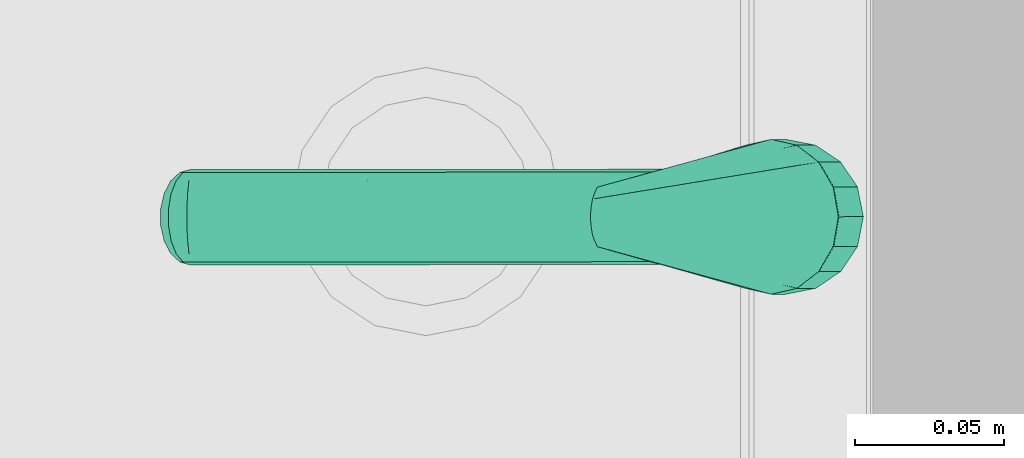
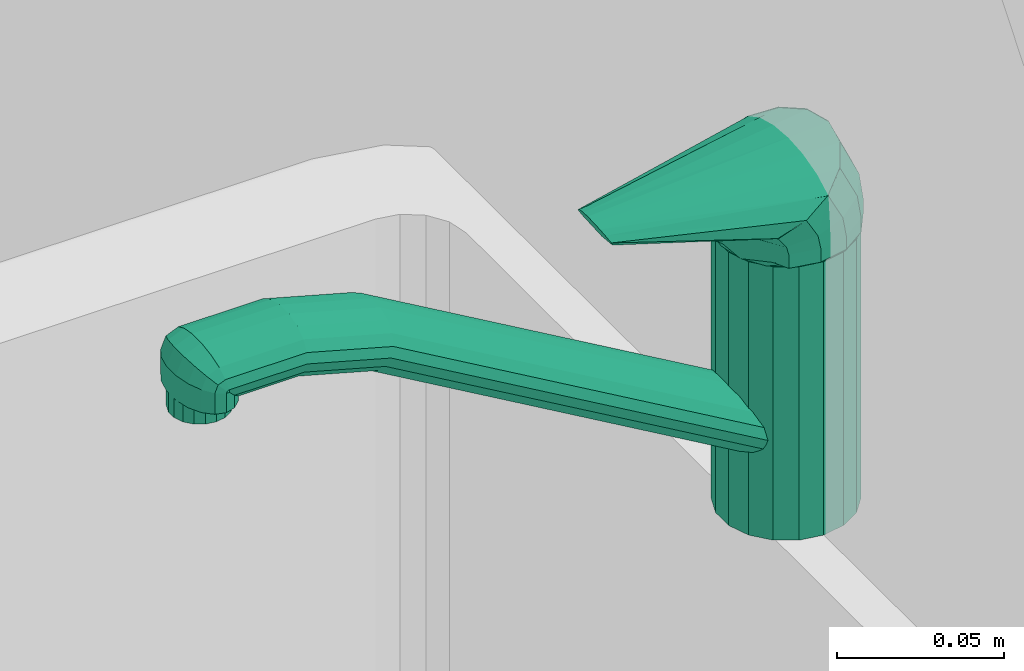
# One storey, part 84 of 127: 1 flow terminal.
"""IFC2X3 building model written with IfcOpenShell, lengths in millimetres."""

from ifc_helpers import new_model, entity, si_unit, converted_unit, derived_unit, money_unit, direction, frame, origin_with_axes, place, context, subcontext, project, spatial, open_shell, faceted_brep, surface_model, source, transform, mapped, type_object, element, save


model = new_model("IFC2X3")

# Units and contexts
model_context = context("Model", 3, precision=1e-05, world=origin_with_axes(), true_north=direction((0.0, 1.0)))
body_context = subcontext(model_context, "Body", "Model", "MODEL_VIEW")
ifc_project = project(units=[si_unit("LENGTHUNIT", "METRE", prefix="MILLI"), si_unit("AREAUNIT", "SQUARE_METRE"), si_unit("VOLUMEUNIT", "CUBIC_METRE"), converted_unit("PLANEANGLEUNIT", "DEGREE", entity("IfcPlaneAngleMeasure", 0.0174532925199), si_unit("PLANEANGLEUNIT", "RADIAN"), dimensions=[0, 0, 0, 0, 0, 0, 0]), si_unit("SOLIDANGLEUNIT", "STERADIAN"), money_unit("EUR"), converted_unit("TIMEUNIT", "Year", entity("IfcTimeMeasure", 31556926.0), si_unit("TIMEUNIT", "SECOND"), dimensions=[0, 0, 1, 0, 0, 0, 0]), si_unit("MASSUNIT", "GRAM", prefix="KILO"), si_unit("THERMODYNAMICTEMPERATUREUNIT", "DEGREE_CELSIUS"), si_unit("LUMINOUSINTENSITYUNIT", "LUMEN"), si_unit("ENERGYUNIT", "JOULE", prefix="MEGA"), derived_unit("THERMALCONDUCTANCEUNIT", [(si_unit("POWERUNIT", "WATT"), 1), (si_unit("LENGTHUNIT", "METRE"), -1), (si_unit("THERMODYNAMICTEMPERATUREUNIT", "KELVIN"), -1)]), derived_unit("SPECIFICHEATCAPACITYUNIT", [(si_unit("ENERGYUNIT", "JOULE"), 1), (si_unit("MASSUNIT", "GRAM", prefix="KILO"), -1), (si_unit("THERMODYNAMICTEMPERATUREUNIT", "KELVIN"), -1)]), derived_unit("MASSDENSITYUNIT", [(si_unit("MASSUNIT", "GRAM", prefix="KILO"), 1), (si_unit("VOLUMEUNIT", "CUBIC_METRE"), -1)])], contexts=[model_context])

# Site, building, storey
site_placement = place(None, origin_with_axes())
site = spatial("IfcSite", under=ifc_project, at=site_placement, Name="Site", CompositionType="ELEMENT")
building_placement = place(site_placement, origin_with_axes())
building = spatial("IfcBuilding", under=site, at=building_placement, Name="Building", CompositionType="ELEMENT")
storey_placement = place(building_placement, origin_with_axes())
storey = spatial("IfcBuildingStorey", under=building, at=storey_placement, Name="1 KORRUS", CompositionType="ELEMENT", Elevation=0.0)

# Flow terminal
sanitary_terminal_type = type_object("IfcSanitaryTerminalType", Name="Tap 22", PredefinedType="NOTDEFINED")
shared_shape = source(origin_with_axes(), body_context, "Body", "SurfaceModel", [
    faceted_brep([(21.1430839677, -7.69545322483, 1000.0), (17.2359999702, -14.4627212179, 1000.0), (11.25, -19.4855715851, 1000.0), (3.90708399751, -22.1581744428, 1000.0), (-3.90708399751, -22.1581744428, 1000.0), (-11.25, -19.4855715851, 1000.0), (-17.2359999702, -14.4627212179, 1000.0), (-21.1430839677, -7.69545322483, 1000.0), (-22.5, 0.0, 1000.0), (-21.1430839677, 7.69545322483, 1000.0), (-17.2359999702, 14.4627212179, 1000.0), (-11.25, 19.4855715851, 1000.0), (-3.90708399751, 22.1581744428, 1000.0), (3.90708399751, 22.1581744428, 1000.0), (11.25, 19.4855715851, 1000.0), (17.2359999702, 14.4627212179, 1000.0), (21.1430839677, 7.69545322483, 1000.0), (22.5, 0.0, 1000.0), (21.1430839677, -7.69545322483, 1010.0), (17.2359999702, -14.4627212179, 1010.0), (11.25, -19.4855715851, 1010.0), (3.90708399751, -22.1581744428, 1010.0), (-3.90708399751, -22.1581744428, 1010.0), (-11.25, -19.4855715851, 1010.0), (-17.2359999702, -14.4627212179, 1010.0), (-21.1430839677, -7.69545322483, 1010.0), (-22.5, 0.0, 1010.0), (-21.1430839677, 7.69545322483, 1010.0), (-17.2359999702, 14.4627212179, 1010.0), (-11.25, 19.4855715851, 1010.0), (-3.90708399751, 22.1581744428, 1010.0), (3.90708399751, 22.1581744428, 1010.0), (11.25, 19.4855715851, 1010.0), (17.2359999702, 14.4627212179, 1010.0), (21.1430839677, 7.69545322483, 1010.0), (22.5, 0.0, 1010.0)], [[[0, 1, 2, 3, 4, 5, 6, 7, 8, 9, 10, 11, 12, 13, 14, 15, 16, 17]], [[1, 0, 18, 19]], [[2, 1, 19, 20]], [[3, 2, 20, 21]], [[4, 3, 21, 22]], [[5, 4, 22, 23]], [[6, 5, 23, 24]], [[7, 6, 24, 25]], [[8, 7, 25, 26]], [[9, 8, 26, 27]], [[10, 9, 27, 28]], [[11, 10, 28, 29]], [[12, 11, 29, 30]], [[13, 12, 30, 31]], [[14, 13, 31, 32]], [[15, 14, 32, 33]], [[16, 15, 33, 34]], [[17, 16, 34, 35]], [[0, 17, 35, 18]], [[18, 35, 34, 33, 32, 31, 30, 29, 28, 27, 26, 25, 24, 23, 22, 21, 20, 19]]]),
    faceted_brep([(21.1430839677, -7.69545322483, 1010.0), (17.2359999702, -14.4627212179, 1010.0), (11.25, -19.4855715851, 1010.0), (3.90708399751, -22.1581744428, 1010.0), (-3.90708399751, -22.1581744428, 1010.0), (-11.25, -19.4855715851, 1010.0), (-17.2359999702, -14.4627212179, 1010.0), (-21.1430839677, -7.69545322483, 1010.0), (-22.5, 0.0, 1010.0), (-21.1430839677, 7.69545322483, 1010.0), (-17.2359999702, 14.4627212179, 1010.0), (-11.25, 19.4855715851, 1010.0), (-3.90708399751, 22.1581744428, 1010.0), (3.90708399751, 22.1581744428, 1010.0), (11.25, 19.4855715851, 1010.0), (17.2359999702, 14.4627212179, 1010.0), (21.1430839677, 7.69545322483, 1010.0), (22.5, 0.0, 1010.0), (21.1430839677, -7.69545322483, 1055.0), (17.2359999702, -14.4627212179, 1055.0), (11.25, -19.4855715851, 1055.0), (3.90708399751, -22.1581744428, 1055.0), (-3.90708399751, -22.1581744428, 1055.0), (-11.25, -19.4855715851, 1055.0), (-17.2359999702, -14.4627212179, 1055.0), (-21.1430839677, -7.69545322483, 1055.0), (-22.5, 0.0, 1055.0), (-21.1430839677, 7.69545322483, 1055.0), (-17.2359999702, 14.4627212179, 1055.0), (-11.25, 19.4855715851, 1055.0), (-3.90708399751, 22.1581744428, 1055.0), (3.90708399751, 22.1581744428, 1055.0), (11.25, 19.4855715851, 1055.0), (17.2359999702, 14.4627212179, 1055.0), (21.1430839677, 7.69545322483, 1055.0), (22.5, 0.0, 1055.0)], [[[0, 1, 2, 3, 4, 5, 6, 7, 8, 9, 10, 11, 12, 13, 14, 15, 16, 17]], [[1, 0, 18, 19]], [[2, 1, 19, 20]], [[3, 2, 20, 21]], [[4, 3, 21, 22]], [[5, 4, 22, 23]], [[6, 5, 23, 24]], [[7, 6, 24, 25]], [[8, 7, 25, 26]], [[9, 8, 26, 27]], [[10, 9, 27, 28]], [[11, 10, 28, 29]], [[12, 11, 29, 30]], [[13, 12, 30, 31]], [[14, 13, 31, 32]], [[15, 14, 32, 33]], [[16, 15, 33, 34]], [[17, 16, 34, 35]], [[0, 17, 35, 18]], [[18, 35, 34, 33, 32, 31, 30, 29, 28, 27, 26, 25, 24, 23, 22, 21, 20, 19]]]),
    faceted_brep([(21.1430839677, -7.69545322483, 1055.0), (17.2359999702, -14.4627212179, 1055.0), (11.25, -19.4855715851, 1055.0), (3.90708399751, -22.1581744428, 1055.0), (-3.90708399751, -22.1581744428, 1055.0), (-11.25, -19.4855715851, 1055.0), (-17.2359999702, -14.4627212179, 1055.0), (-21.1430839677, -7.69545322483, 1055.0), (-22.5, 0.0, 1055.0), (-21.1430839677, 7.69545322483, 1055.0), (-17.2359999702, 14.4627212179, 1055.0), (-11.25, 19.4855715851, 1055.0), (-3.90708399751, 22.1581744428, 1055.0), (3.90708399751, 22.1581744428, 1055.0), (11.25, 19.4855715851, 1055.0), (17.2359999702, 14.4627212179, 1055.0), (21.1430839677, 7.69545322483, 1055.0), (22.5, 0.0, 1055.0), (21.1430839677, -7.69545322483, 1100.0), (17.2359999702, -14.4627212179, 1100.0), (11.25, -19.4855715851, 1100.0), (3.90708399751, -22.1581744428, 1100.0), (-3.90708399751, -22.1581744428, 1100.0), (-11.25, -19.4855715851, 1100.0), (-17.2359999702, -14.4627212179, 1100.0), (-21.1430839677, -7.69545322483, 1100.0), (-22.5, 0.0, 1100.0), (-21.1430839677, 7.69545322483, 1100.0), (-17.2359999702, 14.4627212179, 1100.0), (-11.25, 19.4855715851, 1100.0), (-3.90708399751, 22.1581744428, 1100.0), (3.90708399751, 22.1581744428, 1100.0), (11.25, 19.4855715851, 1100.0), (17.2359999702, 14.4627212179, 1100.0), (21.1430839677, 7.69545322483, 1100.0), (22.5, 0.0, 1100.0)], [[[0, 1, 2, 3, 4, 5, 6, 7, 8, 9, 10, 11, 12, 13, 14, 15, 16, 17]], [[1, 0, 18, 19]], [[2, 1, 19, 20]], [[3, 2, 20, 21]], [[4, 3, 21, 22]], [[5, 4, 22, 23]], [[6, 5, 23, 24]], [[7, 6, 24, 25]], [[8, 7, 25, 26]], [[9, 8, 26, 27]], [[10, 9, 27, 28]], [[11, 10, 28, 29]], [[12, 11, 29, 30]], [[13, 12, 30, 31]], [[14, 13, 31, 32]], [[15, 14, 32, 33]], [[16, 15, 33, 34]], [[17, 16, 34, 35]], [[0, 17, 35, 18]], [[18, 35, 34, 33, 32, 31, 30, 29, 28, 27, 26, 25, 24, 23, 22, 21, 20, 19]]]),
    surface_model("IfcShellBasedSurfaceModel", [(20.7872894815, -8.61037722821, 1100.0), (22.5, 0.0, 1100.0), (26.0, -3.0, 1104.5), (24.0208678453, -12.9497692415, 1104.5), (20.7872894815, 8.61037722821, 1100.0), (24.0208678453, 6.94976924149, 1104.5), (15.9099025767, -15.9099025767, 1100.0), (24.0208678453, -12.9497692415, 1104.5), (15.9099025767, 15.9099025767, 1100.0), (18.3847763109, 15.3847763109, 1104.5), (8.61037722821, -20.7872894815, 1100.0), (8.61037722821, 20.7872894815, 1100.0), (9.94976924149, 21.0208678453, 1104.5), (0.0, -25.1, 1104.5), (0.0, 22.5, 1100.0), (0.0, 23.0, 1104.5), (0.0, -22.5, 1100.0), (-8.61037722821, 20.7872894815, 1100.0), (-9.94976924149, 21.0208678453, 1104.5), (-8.61037722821, -20.7872894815, 1100.0), (-15.9099025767, 15.9099025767, 1100.0), (-18.3847763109, 15.3847763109, 1104.5), (-15.9099025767, -15.9099025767, 1100.0), (-20.7872894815, 8.61037722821, 1100.0), (-24.0208678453, 6.94976924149, 1104.5), (-24.0208678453, -12.9497692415, 1104.5), (-22.5, 0.0, 1100.0), (-26.0, -3.0, 1104.5), (-20.7872894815, -8.61037722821, 1100.0)], [open_shell([[[0, 1, 2, 3]], [[1, 4, 5, 2]], [[6, 0, 3, 7]], [[4, 8, 9, 5]], [[10, 6, 7]], [[8, 11, 12, 9]], [[10, 7, 13]], [[11, 14, 15, 12]], [[16, 10, 13]], [[14, 17, 18, 15]], [[19, 16, 13]], [[17, 20, 21, 18]], [[22, 19, 13]], [[20, 23, 24, 21]], [[22, 13, 25]], [[23, 26, 27, 24]], [[28, 22, 25]], [[26, 28, 25, 27]]])]),
    surface_model("IfcShellBasedSurfaceModel", [(24.0208678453, -12.9497692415, 1103.0), (26.0, -3.0, 1108.0), (24.0208678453, -12.9497692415, 1108.0), (26.0, -3.0, 1103.0), (26.0, -4.0, 1113.0), (24.0208678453, -12.9497692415, 1103.0), (24.0208678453, 6.94976924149, 1108.0), (24.0208678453, -13.7565514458, 1111.04868971), (24.0208678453, 5.75655144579, 1114.95131029), (24.0208678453, -12.9497692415, 1108.0), (24.0208678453, 6.94976924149, 1103.0), (26.0, -8.0, 1120.0), (24.0208678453, 0.638818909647, 1124.93646795), (0.0, -25.1, 1103.0), (18.3847763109, 15.3847763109, 1108.0), (18.3847763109, 14.0277563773, 1116.60555128), (24.0208678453, -16.6388189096, 1115.06353205), (24.0208678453, -13.7565514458, 1111.04868971), (18.3847763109, 7.96245595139, 1129.1214034), (0.0, -25.1, 1108.0), (18.3847763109, 15.3847763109, 1103.0), (-24.0208678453, -12.9497692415, 1103.0), (9.94976924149, 21.0208678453, 1108.0), (9.94976924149, 19.5543988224, 1117.71087976), (9.94976924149, 12.8559537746, 1131.91768787), (24.0208678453, -16.6388189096, 1115.06353205), (0.0, -25.6708329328, 1108.66583341), (-24.0208678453, -12.9497692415, 1108.0), (9.94976924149, 21.0208678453, 1103.0), (-26.0, -3.0, 1103.0), (0.0, 23.0, 1108.0), (0.0, 21.495097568, 1118.09901951), (0.0, 14.5743216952, 1132.8996124), (0.0, -27.188173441, 1109.03532946), (-24.0208678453, -13.7565514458, 1111.04868971), (-26.0, -3.0, 1108.0), (0.0, 23.0, 1103.0), (-24.0208678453, 6.94976924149, 1103.0), (-9.94976924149, 21.0208678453, 1108.0), (-9.94976924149, 19.5543988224, 1117.71087976), (-9.94976924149, 12.8559537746, 1131.91768787), (-24.0208678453, -16.6388189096, 1115.06353205), (-26.0, -4.0, 1113.0), (-24.0208678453, 6.94976924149, 1108.0), (-9.94976924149, 21.0208678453, 1103.0), (-18.3847763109, 15.3847763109, 1103.0), (-18.3847763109, 15.3847763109, 1108.0), (-18.3847763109, 14.0277563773, 1116.60555128), (-18.3847763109, 7.96245595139, 1129.1214034), (-26.0, -8.0, 1120.0), (-24.0208678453, 5.75655144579, 1114.95131029), (-24.0208678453, 0.638818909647, 1124.93646795)], [open_shell([[[0, 1, 2]], [[1, 0, 3]], [[4, 2, 1]], [[2, 5, 0]], [[3, 6, 1]], [[2, 4, 7]], [[1, 8, 4]], [[5, 2, 9]], [[6, 3, 10]], [[8, 1, 6]], [[11, 7, 4]], [[7, 9, 2]], [[12, 4, 8]], [[9, 13, 5]], [[10, 14, 6]], [[6, 15, 8]], [[7, 11, 16]], [[4, 12, 11]], [[9, 7, 17]], [[8, 18, 12]], [[13, 9, 19]], [[14, 10, 20]], [[15, 6, 14]], [[18, 8, 15]], [[16, 17, 7]], [[17, 19, 9]], [[19, 21, 13]], [[20, 22, 14]], [[14, 23, 15]], [[15, 24, 18]], [[17, 16, 25]], [[19, 17, 26]], [[21, 19, 27]], [[22, 20, 28]], [[23, 14, 22]], [[24, 15, 23]], [[25, 26, 17]], [[26, 27, 19]], [[27, 29, 21]], [[28, 30, 22]], [[22, 31, 23]], [[23, 32, 24]], [[26, 25, 33]], [[27, 26, 34]], [[29, 27, 35]], [[30, 28, 36]], [[31, 22, 30]], [[32, 23, 31]], [[33, 34, 26]], [[34, 35, 27]], [[35, 37, 29]], [[36, 38, 30]], [[30, 39, 31]], [[31, 40, 32]], [[34, 33, 41]], [[35, 34, 42]], [[37, 35, 43]], [[38, 36, 44]], [[39, 30, 38]], [[40, 31, 39]], [[41, 42, 34]], [[42, 43, 35]], [[43, 45, 37]], [[44, 46, 38]], [[38, 47, 39]], [[39, 48, 40]], [[42, 41, 49]], [[43, 42, 50]], [[45, 43, 46]], [[46, 44, 45]], [[47, 38, 46]], [[48, 39, 47]], [[49, 50, 42]], [[50, 46, 43]], [[46, 50, 47]], [[47, 51, 48]], [[50, 49, 51]], [[51, 47, 50]]])]),
    surface_model("IfcShellBasedSurfaceModel", [(24.0208678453, -16.7440274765, 1115.25238044), (26.0, -8.0, 1120.0), (10.0, -66.2556184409, 1122.50657537), (8.0, -67.2099359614, 1124.26420959), (9.0, -65.3013009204, 1120.74894114), (24.0208678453, 0.744027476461, 1124.74761956), (6.0, -67.9256741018, 1125.58243526), (3.0, -68.4028328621, 1126.46125237), (0.0, -68.6414122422, 1126.90066093), (-3.0, -68.4028328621, 1126.46125237), (-6.0, -67.9256741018, 1125.58243526), (-8.0, -67.2099359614, 1124.26420959), (-10.0, -66.2556184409, 1122.50657537), (-9.0, -65.3013009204, 1120.74894114), (0.0, -63.8698246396, 1118.1124898), (0.0, -27.4218581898, 1109.4547914), (18.3847763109, 8.15685603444, 1128.77245707), (9.94976924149, 13.1099497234, 1131.46176752), (0.0, 14.8492449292, 1132.40612777), (-9.94976924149, 13.1099497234, 1131.46176752), (-18.3847763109, 8.15685603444, 1128.77245707), (-24.0208678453, 0.744027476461, 1124.74761956), (-26.0, -8.0, 1120.0), (-24.0208678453, -16.7440274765, 1115.25238044)], [open_shell([[[0, 1, 2]], [[1, 3, 2]], [[0, 2, 4]], [[1, 5, 3]], [[4, 2, 3, 6, 7, 8, 9, 10, 11, 12, 13, 14]], [[15, 0, 4]], [[5, 6, 3]], [[16, 7, 6]], [[17, 8, 7]], [[18, 9, 8]], [[19, 10, 9]], [[20, 11, 10]], [[21, 12, 11]], [[22, 13, 12]], [[23, 14, 13]], [[15, 4, 14]], [[5, 16, 6]], [[16, 17, 7]], [[17, 18, 8]], [[18, 19, 9]], [[19, 20, 10]], [[20, 21, 11]], [[21, 22, 12]], [[22, 23, 13]], [[23, 15, 14]]])]),
    surface_model("IfcShellBasedSurfaceModel", [(16.0, -15.0, 1035.8), (15.0350819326, -13.350271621, 1038.79711945), (15.0350819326, -144.663324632, 1115.17921593), (16.0, -146.0, 1112.0), (12.2567110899, -11.8995248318, 1041.43274206), (12.2567110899, -143.487872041, 1117.97497151), (15.0350819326, -174.536897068, 1123.42020143), (16.0, -175.0, 1120.0), (15.0350819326, -16.649728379, 1032.80288055), (15.0350819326, -147.336675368, 1108.82078407), (8.0, -10.8227411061, 1043.38897285), (8.0, -142.615419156, 1120.05005733), (12.2567110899, -174.129651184, 1126.4278761), (15.0350819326, -202.702022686, 1123.42020143), (16.0, -202.0, 1120.0), (15.0350819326, -175.463102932, 1116.57979857), (12.2567110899, -18.1004751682, 1030.16725794), (12.2567110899, -148.512127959, 1106.02502849), (2.77837084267, -10.2497964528, 1044.42986151), (2.77837084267, -142.151196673, 1121.15418744), (8.0, -173.827382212, 1128.66025404), (12.2567110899, -203.319371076, 1126.4278761), (15.0350819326, -205.304747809, 1122.30474781), (16.0, -202.7, 1119.7), (15.0350819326, -201.297977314, 1116.57979857), (12.2567110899, -175.870348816, 1113.5721239), (8.0, -19.1772588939, 1028.21102715), (8.0, -149.384580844, 1103.94994267), (-2.77837084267, -10.2497964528, 1044.42986151), (-2.77837084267, -142.151196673, 1121.15418744), (2.77837084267, -173.666548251, 1129.84807753), (8.0, -203.777583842, 1128.66025404), (12.2567110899, -207.595324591, 1124.59532459), (15.0350819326, -206.420201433, 1119.70202269), (16.0, -203.0, 1119.0), (15.0350819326, -200.095252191, 1117.09525219), (12.2567110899, -200.680628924, 1113.5721239), (8.0, -176.172617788, 1111.33974596), (2.77837084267, -19.7502035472, 1027.17013849), (2.77837084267, -149.848803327, 1102.84581256), (-8.0, -10.8227411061, 1043.38897285), (-8.0, -142.615419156, 1120.05005733), (-2.77837084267, -173.666548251, 1129.84807753), (2.77837084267, -204.021393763, 1129.84807753), (8.0, -209.295452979, 1126.29545298), (12.2567110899, -209.427876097, 1120.31937108), (15.0350819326, -206.420201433, 1112.0), (16.0, -203.0, 1112.0), (15.0350819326, -199.579798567, 1118.29797731), (12.2567110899, -197.804675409, 1114.80467541), (8.0, -200.222416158, 1111.33974596), (2.77837084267, -176.333451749, 1110.15192247), (-2.77837084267, -19.7502035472, 1027.17013849), (-2.77837084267, -149.848803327, 1102.84581256), (-12.2567110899, -11.8995248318, 1041.43274206), (-12.2567110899, -143.487872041, 1117.97497151), (-8.0, -173.827382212, 1128.66025404), (-2.77837084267, -204.021393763, 1129.84807753), (2.77837084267, -210.2000724, 1127.2000724), (8.0, -211.660254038, 1120.77758384), (12.2567110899, -209.427876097, 1112.0), (8.0, -211.660254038, 1112.0), (2.77837084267, -212.84807753, 1112.0), (-2.77837084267, -212.84807753, 1112.0), (-8.0, -211.660254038, 1112.0), (-12.2567110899, -209.427876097, 1112.0), (-15.0350819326, -206.420201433, 1112.0), (-16.0, -203.0, 1112.0), (-15.0350819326, -199.579798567, 1112.0), (-12.2567110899, -196.572123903, 1112.0), (-8.0, -194.339745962, 1112.0), (-2.77837084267, -193.15192247, 1112.0), (2.77837084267, -193.15192247, 1112.0), (8.0, -194.339745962, 1112.0), (12.2567110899, -196.572123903, 1112.0), (15.0350819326, -199.579798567, 1112.0), (12.2567110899, -196.572123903, 1117.68062892), (8.0, -196.104547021, 1113.10454702), (2.77837084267, -199.978606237, 1110.15192247), (-2.77837084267, -176.333451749, 1110.15192247), (-8.0, -19.1772588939, 1028.21102715), (-8.0, -149.384580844, 1103.94994267), (-15.0350819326, -13.350271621, 1038.79711945), (-15.0350819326, -144.663324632, 1115.17921593), (-12.2567110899, -174.129651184, 1126.4278761), (-8.0, -203.777583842, 1128.66025404), (-2.77837084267, -210.2000724, 1127.2000724), (2.77837084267, -212.84807753, 1121.02139376), (-2.77837084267, -212.84807753, 1121.02139376), (-8.0, -211.660254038, 1120.77758384), (-12.2567110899, -209.427876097, 1120.31937108), (-15.0350819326, -206.420201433, 1119.70202269), (-16.0, -203.0, 1119.0), (-15.0350819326, -199.579798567, 1118.29797731), (-12.2567110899, -196.572123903, 1117.68062892), (-8.0, -194.339745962, 1117.22241616), (-2.77837084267, -193.15192247, 1116.97860624), (2.77837084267, -193.15192247, 1116.97860624), (8.0, -194.339745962, 1117.22241616), (2.77837084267, -195.1999276, 1112.1999276), (-2.77837084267, -199.978606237, 1110.15192247), (-8.0, -176.172617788, 1111.33974596), (-12.2567110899, -18.1004751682, 1030.16725794), (-12.2567110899, -148.512127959, 1106.02502849), (-16.0, -15.0, 1035.8), (-16.0, -146.0, 1112.0), (-15.0350819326, -174.536897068, 1123.42020143), (-12.2567110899, -203.319371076, 1126.4278761), (-8.0, -209.295452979, 1126.29545298), (-12.2567110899, -207.595324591, 1124.59532459), (-15.0350819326, -205.304747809, 1122.30474781), (-16.0, -202.7, 1119.7), (-15.0350819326, -200.095252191, 1117.09525219), (-12.2567110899, -197.804675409, 1114.80467541), (-8.0, -196.104547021, 1113.10454702), (-2.77837084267, -195.1999276, 1112.1999276), (-8.0, -200.222416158, 1111.33974596), (-12.2567110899, -175.870348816, 1113.5721239), (-15.0350819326, -16.649728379, 1032.80288055), (-15.0350819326, -147.336675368, 1108.82078407), (-16.0, -175.0, 1120.0), (-15.0350819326, -202.702022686, 1123.42020143), (-16.0, -202.0, 1120.0), (-15.0350819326, -201.297977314, 1116.57979857), (-12.2567110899, -200.680628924, 1113.5721239), (-15.0350819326, -175.463102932, 1116.57979857)], [open_shell([[[0, 1, 2, 3]], [[1, 4, 5, 2]], [[3, 2, 6, 7]], [[8, 0, 3, 9]], [[4, 10, 11, 5]], [[2, 5, 12, 6]], [[7, 6, 13, 14]], [[9, 3, 7, 15]], [[16, 8, 9, 17]], [[10, 18, 19, 11]], [[5, 11, 20, 12]], [[6, 12, 21, 13]], [[14, 13, 22, 23]], [[15, 7, 14, 24]], [[17, 9, 15, 25]], [[26, 16, 17, 27]], [[18, 28, 29, 19]], [[11, 19, 30, 20]], [[12, 20, 31, 21]], [[13, 21, 32, 22]], [[23, 22, 33, 34]], [[24, 14, 23, 35]], [[25, 15, 24, 36]], [[27, 17, 25, 37]], [[38, 26, 27, 39]], [[28, 40, 41, 29]], [[19, 29, 42, 30]], [[20, 30, 43, 31]], [[21, 31, 44, 32]], [[22, 32, 45, 33]], [[34, 33, 46, 47]], [[35, 23, 34, 48]], [[36, 24, 35, 49]], [[37, 25, 36, 50]], [[39, 27, 37, 51]], [[52, 38, 39, 53]], [[40, 54, 55, 41]], [[29, 41, 56, 42]], [[30, 42, 57, 43]], [[31, 43, 58, 44]], [[32, 44, 59, 45]], [[33, 45, 60, 46]], [[47, 46, 60, 61, 62, 63, 64, 65, 66, 67, 68, 69, 70, 71, 72, 73, 74, 75]], [[48, 34, 47, 75]], [[49, 35, 48, 76]], [[50, 36, 49, 77]], [[51, 37, 50, 78]], [[53, 39, 51, 79]], [[80, 52, 53, 81]], [[54, 82, 83, 55]], [[41, 55, 84, 56]], [[42, 56, 85, 57]], [[43, 57, 86, 58]], [[44, 58, 87, 59]], [[45, 59, 61, 60]], [[59, 87, 62, 61]], [[87, 88, 63, 62]], [[88, 89, 64, 63]], [[89, 90, 65, 64]], [[90, 91, 66, 65]], [[91, 92, 67, 66]], [[92, 93, 68, 67]], [[93, 94, 69, 68]], [[94, 95, 70, 69]], [[95, 96, 71, 70]], [[96, 97, 72, 71]], [[97, 98, 73, 72]], [[98, 76, 74, 73]], [[76, 48, 75, 74]], [[77, 49, 76, 98]], [[78, 50, 77, 99]], [[79, 51, 78, 100]], [[81, 53, 79, 101]], [[102, 80, 81, 103]], [[82, 104, 105, 83]], [[55, 83, 106, 84]], [[56, 84, 107, 85]], [[57, 85, 108, 86]], [[58, 86, 88, 87]], [[86, 108, 89, 88]], [[108, 109, 90, 89]], [[109, 110, 91, 90]], [[110, 111, 92, 91]], [[111, 112, 93, 92]], [[112, 113, 94, 93]], [[113, 114, 95, 94]], [[114, 115, 96, 95]], [[115, 99, 97, 96]], [[99, 77, 98, 97]], [[100, 78, 99, 115]], [[101, 79, 100, 116]], [[103, 81, 101, 117]], [[118, 102, 103, 119]], [[104, 118, 119, 105]], [[83, 105, 120, 106]], [[84, 106, 121, 107]], [[85, 107, 109, 108]], [[107, 121, 110, 109]], [[121, 122, 111, 110]], [[122, 123, 112, 111]], [[123, 124, 113, 112]], [[124, 116, 114, 113]], [[116, 100, 115, 114]], [[117, 101, 116, 124]], [[119, 103, 117, 125]], [[105, 119, 125, 120]], [[106, 120, 122, 121]], [[120, 125, 123, 122]], [[125, 117, 124, 123]]])]),
    faceted_brep([(9.39692620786, -199.579798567, 1112.0), (7.66044443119, -196.572123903, 1112.0), (5.0, -194.339745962, 1112.0), (1.73648177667, -193.15192247, 1112.0), (-1.73648177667, -193.15192247, 1112.0), (-5.0, -194.339745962, 1112.0), (-7.66044443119, -196.572123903, 1112.0), (-9.39692620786, -199.579798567, 1112.0), (-10.0, -203.0, 1112.0), (-9.39692620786, -206.420201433, 1112.0), (-7.66044443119, -209.427876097, 1112.0), (-5.0, -211.660254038, 1112.0), (-1.73648177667, -212.84807753, 1112.0), (1.73648177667, -212.84807753, 1112.0), (5.0, -211.660254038, 1112.0), (7.66044443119, -209.427876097, 1112.0), (9.39692620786, -206.420201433, 1112.0), (10.0, -203.0, 1112.0), (9.39692620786, -199.579798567, 1105.0), (7.66044443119, -196.572123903, 1105.0), (5.0, -194.339745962, 1105.0), (1.73648177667, -193.15192247, 1105.0), (-1.73648177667, -193.15192247, 1105.0), (-5.0, -194.339745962, 1105.0), (-7.66044443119, -196.572123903, 1105.0), (-9.39692620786, -199.579798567, 1105.0), (-10.0, -203.0, 1105.0), (-9.39692620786, -206.420201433, 1105.0), (-7.66044443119, -209.427876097, 1105.0), (-5.0, -211.660254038, 1105.0), (-1.73648177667, -212.84807753, 1105.0), (1.73648177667, -212.84807753, 1105.0), (5.0, -211.660254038, 1105.0), (7.66044443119, -209.427876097, 1105.0), (9.39692620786, -206.420201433, 1105.0), (10.0, -203.0, 1105.0)], [[[0, 1, 2, 3, 4, 5, 6, 7, 8, 9, 10, 11, 12, 13, 14, 15, 16, 17]], [[1, 0, 18, 19]], [[2, 1, 19, 20]], [[3, 2, 20, 21]], [[4, 3, 21, 22]], [[5, 4, 22, 23]], [[6, 5, 23, 24]], [[7, 6, 24, 25]], [[8, 7, 25, 26]], [[9, 8, 26, 27]], [[10, 9, 27, 28]], [[11, 10, 28, 29]], [[12, 11, 29, 30]], [[13, 12, 30, 31]], [[14, 13, 31, 32]], [[15, 14, 32, 33]], [[16, 15, 33, 34]], [[17, 16, 34, 35]], [[0, 17, 35, 18]], [[18, 35, 34, 33, 32, 31, 30, 29, 28, 27, 26, 25, 24, 23, 22, 21, 20, 19]]]),
])
flow_terminal_placement = place(storey_placement, frame((49007.2978685, 44033.4805249, 29.8884859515), z_axis=(0.0, 0.0, 1.0), x_axis=(0.000769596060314, -0.999999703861, 0.0)))
element("IfcFlowTerminal", 1, at=flow_terminal_placement, inside=storey, type_object=sanitary_terminal_type, Name="Valamu", context=body_context, shape_type="MappedRepresentation", body=[
    mapped(shared_shape, transform((0.0, 0.0, 0.0))),
])

save(model, "model.ifc")
